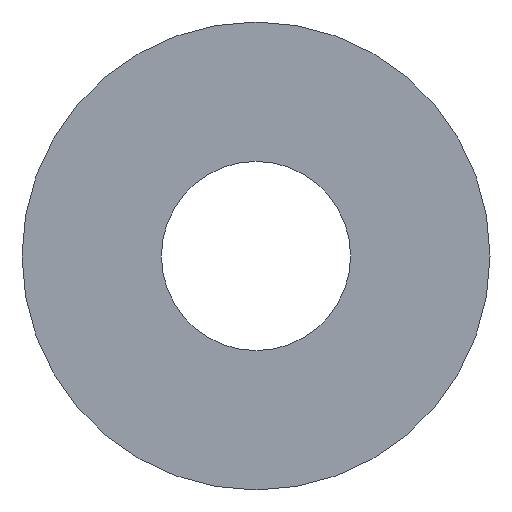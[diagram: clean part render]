
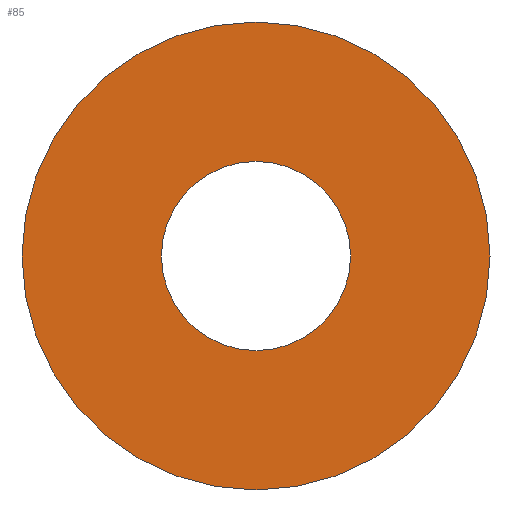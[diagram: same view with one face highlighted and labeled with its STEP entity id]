
A CAD part, left-side view. The second image highlights one B-rep face of the part: STEP entity #85.
In plain terms, the highlighted planar face has unit normal (-1, 0, 0).
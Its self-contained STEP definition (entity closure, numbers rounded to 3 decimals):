
#19=FACE_BOUND('',#34,.T.);
#26=FACE_OUTER_BOUND('',#33,.T.);
#33=EDGE_LOOP('',(#68));
#34=EDGE_LOOP('',(#69));
#47=CIRCLE('',#95,66.273);
#48=CIRCLE('',#96,26.787);
#54=VERTEX_POINT('',#140);
#55=VERTEX_POINT('',#142);
#61=EDGE_CURVE('',#54,#54,#47,.T.);
#62=EDGE_CURVE('',#55,#55,#48,.T.);
#68=ORIENTED_EDGE('',*,*,#61,.T.);
#69=ORIENTED_EDGE('',*,*,#62,.F.);
#82=PLANE('',#94);
#85=ADVANCED_FACE('',(#26,#19),#82,.T.);
#94=AXIS2_PLACEMENT_3D('',#139,#110,#111);
#95=AXIS2_PLACEMENT_3D('',#141,#112,#113);
#96=AXIS2_PLACEMENT_3D('',#143,#114,#115);
#110=DIRECTION('center_axis',(-1.,0.,0.));
#111=DIRECTION('ref_axis',(0.,0.,1.));
#112=DIRECTION('center_axis',(-1.,0.,0.));
#113=DIRECTION('ref_axis',(0.,0.,1.));
#114=DIRECTION('center_axis',(-1.,0.,0.));
#115=DIRECTION('ref_axis',(0.,0.,1.));
#139=CARTESIAN_POINT('Origin',(-0.483,28.214,0.));
#140=CARTESIAN_POINT('',(-0.483,-11.271,0.));
#141=CARTESIAN_POINT('Origin',(-0.483,55.001,0.));
#142=CARTESIAN_POINT('',(-0.483,28.214,0.));
#143=CARTESIAN_POINT('Origin',(-0.483,55.001,0.));
